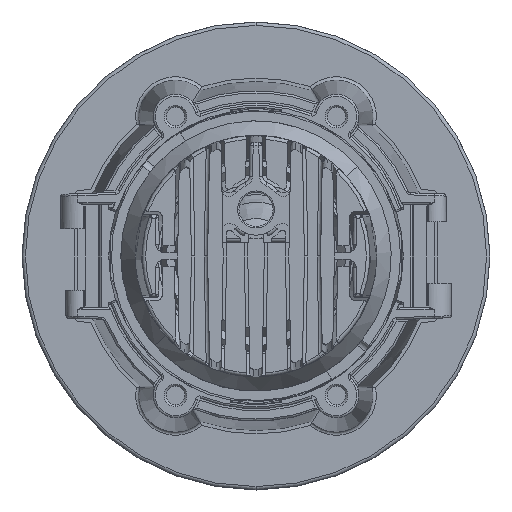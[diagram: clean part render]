
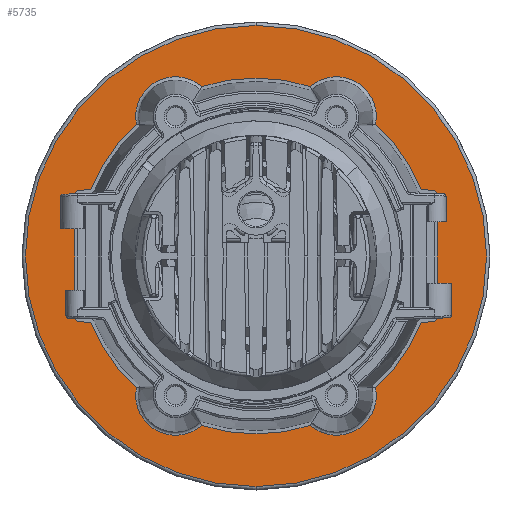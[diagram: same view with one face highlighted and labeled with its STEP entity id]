
A CAD part, front view. The second image highlights one B-rep face of the part: STEP entity #5735.
In plain terms, the highlighted planar face has unit normal (0, -1, 0).
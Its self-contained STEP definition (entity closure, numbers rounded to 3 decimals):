
#21=CARTESIAN_POINT('',(0.,39.,-160.));
#22=DIRECTION('',(0.,-1.,0.));
#23=DIRECTION('',(0.,0.,1.));
#24=AXIS2_PLACEMENT_3D('',#21,#22,#23);
#26=CARTESIAN_POINT('',(0.,39.,-160.));
#27=DIRECTION('',(0.,-1.,0.));
#28=DIRECTION('',(0.,0.,-1.));
#29=AXIS2_PLACEMENT_3D('',#26,#27,#28);
#31=CARTESIAN_POINT('',(-11.75,39.,-180.35));
#32=DIRECTION('',(0.,-1.,0.));
#33=DIRECTION('',(-0.982,0.,0.191));
#34=AXIS2_PLACEMENT_3D('',#31,#32,#33);
#36=CARTESIAN_POINT('',(0.,39.,-160.));
#37=DIRECTION('',(0.,-1.,0.));
#38=DIRECTION('',(-0.305,0.,-0.952));
#39=AXIS2_PLACEMENT_3D('',#36,#37,#38);
#41=CARTESIAN_POINT('',(11.75,39.,-180.35));
#42=DIRECTION('',(0.,-1.,0.));
#43=DIRECTION('',(-0.656,0.,-0.755));
#44=AXIS2_PLACEMENT_3D('',#41,#42,#43);
#46=CARTESIAN_POINT('',(0.,39.,-160.));
#47=DIRECTION('',(0.,-1.,0.));
#48=DIRECTION('',(0.672,0.,-0.74));
#49=AXIS2_PLACEMENT_3D('',#46,#47,#48);
#51=DIRECTION('',(0.999,0.,0.035));
#52=VECTOR('',#51,1.613);
#53=CARTESIAN_POINT('',(24.116,39.,-169.671));
#54=LINE('',#53,#52);
#55=CARTESIAN_POINT('',(25.7,39.,-168.815));
#56=DIRECTION('',(0.,-1.,0.));
#57=DIRECTION('',(0.035,0.,-0.999));
#58=AXIS2_PLACEMENT_3D('',#55,#56,#57);
#60=DIRECTION('',(0.,0.,1.));
#61=VECTOR('',#60,17.63);
#62=CARTESIAN_POINT('',(26.5,39.,-168.815));
#63=LINE('',#62,#61);
#64=CARTESIAN_POINT('',(25.7,39.,-151.185));
#65=DIRECTION('',(0.,-1.,0.));
#66=DIRECTION('',(1.,0.,0.));
#67=AXIS2_PLACEMENT_3D('',#64,#65,#66);
#69=DIRECTION('',(-0.999,0.,0.035));
#70=VECTOR('',#69,1.613);
#71=CARTESIAN_POINT('',(25.728,39.,-150.385));
#72=LINE('',#71,#70);
#73=CARTESIAN_POINT('',(0.,39.,-160.));
#74=DIRECTION('',(0.,-1.,0.));
#75=DIRECTION('',(0.928,0.,0.372));
#76=AXIS2_PLACEMENT_3D('',#73,#74,#75);
#78=CARTESIAN_POINT('',(11.75,39.,-139.65));
#79=DIRECTION('',(0.,-1.,0.));
#80=DIRECTION('',(0.982,0.,-0.191));
#81=AXIS2_PLACEMENT_3D('',#78,#79,#80);
#83=CARTESIAN_POINT('',(0.,39.,-160.));
#84=DIRECTION('',(0.,-1.,0.));
#85=DIRECTION('',(0.305,0.,0.952));
#86=AXIS2_PLACEMENT_3D('',#83,#84,#85);
#88=CARTESIAN_POINT('',(-11.75,39.,-139.65));
#89=DIRECTION('',(0.,-1.,0.));
#90=DIRECTION('',(0.656,0.,0.755));
#91=AXIS2_PLACEMENT_3D('',#88,#89,#90);
#93=CARTESIAN_POINT('',(0.,39.,-160.));
#94=DIRECTION('',(0.,-1.,0.));
#95=DIRECTION('',(-0.672,0.,0.74));
#96=AXIS2_PLACEMENT_3D('',#93,#94,#95);
#98=DIRECTION('',(-0.999,0.,-0.035));
#99=VECTOR('',#98,1.613);
#100=CARTESIAN_POINT('',(-24.116,39.,-150.329));
#101=LINE('',#100,#99);
#102=CARTESIAN_POINT('',(-25.7,39.,-151.185));
#103=DIRECTION('',(0.,-1.,0.));
#104=DIRECTION('',(-0.035,0.,0.999));
#105=AXIS2_PLACEMENT_3D('',#102,#103,#104);
#107=DIRECTION('',(0.,0.,-1.));
#108=VECTOR('',#107,17.63);
#109=CARTESIAN_POINT('',(-26.5,39.,-151.185));
#110=LINE('',#109,#108);
#111=CARTESIAN_POINT('',(-25.7,39.,-168.815));
#112=DIRECTION('',(0.,-1.,0.));
#113=DIRECTION('',(-1.,0.,0.));
#114=AXIS2_PLACEMENT_3D('',#111,#112,#113);
#116=DIRECTION('',(0.999,0.,-0.035));
#117=VECTOR('',#116,1.613);
#118=CARTESIAN_POINT('',(-25.728,39.,-169.615));
#119=LINE('',#118,#117);
#120=CARTESIAN_POINT('',(0.,39.,-160.));
#121=DIRECTION('',(0.,-1.,0.));
#122=DIRECTION('',(-0.928,0.,-0.372));
#123=AXIS2_PLACEMENT_3D('',#120,#121,#122);
#4948=CARTESIAN_POINT('',(0.,39.,-126.331));
#4949=CARTESIAN_POINT('',(0.,39.,-193.669));
#4950=VERTEX_POINT('',#4948);
#4951=VERTEX_POINT('',#4949);
#5480=CARTESIAN_POINT('',(-17.464,39.,-179.239));
#5481=CARTESIAN_POINT('',(-7.931,39.,-184.743));
#5482=VERTEX_POINT('',#5480);
#5483=VERTEX_POINT('',#5481);
#5488=CARTESIAN_POINT('',(7.931,39.,-184.743));
#5489=VERTEX_POINT('',#5488);
#5498=CARTESIAN_POINT('',(17.464,39.,-179.239));
#5499=VERTEX_POINT('',#5498);
#5500=CARTESIAN_POINT('',(24.116,39.,-150.329));
#5501=CARTESIAN_POINT('',(17.464,39.,-140.761));
#5502=VERTEX_POINT('',#5500);
#5503=VERTEX_POINT('',#5501);
#5510=CARTESIAN_POINT('',(25.728,39.,-150.385));
#5511=VERTEX_POINT('',#5510);
#5514=CARTESIAN_POINT('',(26.5,39.,-151.185));
#5515=VERTEX_POINT('',#5514);
#5518=CARTESIAN_POINT('',(26.5,39.,-168.815));
#5519=VERTEX_POINT('',#5518);
#5522=CARTESIAN_POINT('',(25.728,39.,-169.615));
#5523=VERTEX_POINT('',#5522);
#5526=CARTESIAN_POINT('',(24.116,39.,-169.671));
#5527=VERTEX_POINT('',#5526);
#5538=CARTESIAN_POINT('',(7.931,39.,-135.257));
#5539=VERTEX_POINT('',#5538);
#5540=CARTESIAN_POINT('',(-7.931,39.,-135.257));
#5541=VERTEX_POINT('',#5540);
#5550=CARTESIAN_POINT('',(-17.464,39.,-140.761));
#5551=VERTEX_POINT('',#5550);
#5552=CARTESIAN_POINT('',(-24.116,39.,-169.671));
#5553=VERTEX_POINT('',#5552);
#5560=CARTESIAN_POINT('',(-25.728,39.,-169.615));
#5561=VERTEX_POINT('',#5560);
#5564=CARTESIAN_POINT('',(-26.5,39.,-168.815));
#5565=VERTEX_POINT('',#5564);
#5568=CARTESIAN_POINT('',(-26.5,39.,-151.185));
#5569=VERTEX_POINT('',#5568);
#5572=CARTESIAN_POINT('',(-25.728,39.,-150.385));
#5573=VERTEX_POINT('',#5572);
#5576=CARTESIAN_POINT('',(-24.116,39.,-150.329));
#5577=VERTEX_POINT('',#5576);
#5682=CARTESIAN_POINT('',(0.,39.,-160.));
#5683=DIRECTION('',(0.,-1.,0.));
#5684=DIRECTION('',(0.,0.,-1.));
#5685=AXIS2_PLACEMENT_3D('',#5682,#5683,#5684);
#5686=PLANE('',#5685);
#5688=ORIENTED_EDGE('',*,*,#5687,.F.);
#5690=ORIENTED_EDGE('',*,*,#5689,.F.);
#5691=EDGE_LOOP('',(#5688,#5690));
#5692=FACE_OUTER_BOUND('',#5691,.F.);
#5694=ORIENTED_EDGE('',*,*,#5693,.T.);
#5696=ORIENTED_EDGE('',*,*,#5695,.T.);
#5698=ORIENTED_EDGE('',*,*,#5697,.T.);
#5700=ORIENTED_EDGE('',*,*,#5699,.T.);
#5702=ORIENTED_EDGE('',*,*,#5701,.T.);
#5704=ORIENTED_EDGE('',*,*,#5703,.T.);
#5706=ORIENTED_EDGE('',*,*,#5705,.T.);
#5708=ORIENTED_EDGE('',*,*,#5707,.T.);
#5710=ORIENTED_EDGE('',*,*,#5709,.T.);
#5712=ORIENTED_EDGE('',*,*,#5711,.T.);
#5714=ORIENTED_EDGE('',*,*,#5713,.T.);
#5716=ORIENTED_EDGE('',*,*,#5715,.T.);
#5718=ORIENTED_EDGE('',*,*,#5717,.T.);
#5720=ORIENTED_EDGE('',*,*,#5719,.T.);
#5722=ORIENTED_EDGE('',*,*,#5721,.T.);
#5724=ORIENTED_EDGE('',*,*,#5723,.T.);
#5726=ORIENTED_EDGE('',*,*,#5725,.T.);
#5728=ORIENTED_EDGE('',*,*,#5727,.T.);
#5730=ORIENTED_EDGE('',*,*,#5729,.T.);
#5732=ORIENTED_EDGE('',*,*,#5731,.T.);
#5733=EDGE_LOOP('',(#5694,#5696,#5698,#5700,#5702,#5704,#5706,#5708,#5710,#5712,
#5714,#5716,#5718,#5720,#5722,#5724,#5726,#5728,#5730,#5732));
#5734=FACE_BOUND('',#5733,.F.);
#5735=ADVANCED_FACE('',(#5692,#5734),#5686,.T.);
#25=CIRCLE('',#24,33.669);
#30=CIRCLE('',#29,33.669);
#35=CIRCLE('',#34,5.821);
#40=CIRCLE('',#39,25.983);
#45=CIRCLE('',#44,5.821);
#50=CIRCLE('',#49,25.983);
#59=CIRCLE('',#58,0.8);
#68=CIRCLE('',#67,0.8);
#77=CIRCLE('',#76,25.983);
#82=CIRCLE('',#81,5.821);
#87=CIRCLE('',#86,25.983);
#92=CIRCLE('',#91,5.821);
#97=CIRCLE('',#96,25.983);
#106=CIRCLE('',#105,0.8);
#115=CIRCLE('',#114,0.8);
#124=CIRCLE('',#123,25.983);
#5687=EDGE_CURVE('',#4950,#4951,#25,.T.);
#5689=EDGE_CURVE('',#4951,#4950,#30,.T.);
#5693=EDGE_CURVE('',#5482,#5483,#35,.T.);
#5695=EDGE_CURVE('',#5483,#5489,#40,.T.);
#5697=EDGE_CURVE('',#5489,#5499,#45,.T.);
#5699=EDGE_CURVE('',#5499,#5527,#50,.T.);
#5701=EDGE_CURVE('',#5527,#5523,#54,.T.);
#5703=EDGE_CURVE('',#5523,#5519,#59,.T.);
#5705=EDGE_CURVE('',#5519,#5515,#63,.T.);
#5707=EDGE_CURVE('',#5515,#5511,#68,.T.);
#5709=EDGE_CURVE('',#5511,#5502,#72,.T.);
#5711=EDGE_CURVE('',#5502,#5503,#77,.T.);
#5713=EDGE_CURVE('',#5503,#5539,#82,.T.);
#5715=EDGE_CURVE('',#5539,#5541,#87,.T.);
#5717=EDGE_CURVE('',#5541,#5551,#92,.T.);
#5719=EDGE_CURVE('',#5551,#5577,#97,.T.);
#5721=EDGE_CURVE('',#5577,#5573,#101,.T.);
#5723=EDGE_CURVE('',#5573,#5569,#106,.T.);
#5725=EDGE_CURVE('',#5569,#5565,#110,.T.);
#5727=EDGE_CURVE('',#5565,#5561,#115,.T.);
#5729=EDGE_CURVE('',#5561,#5553,#119,.T.);
#5731=EDGE_CURVE('',#5553,#5482,#124,.T.);
